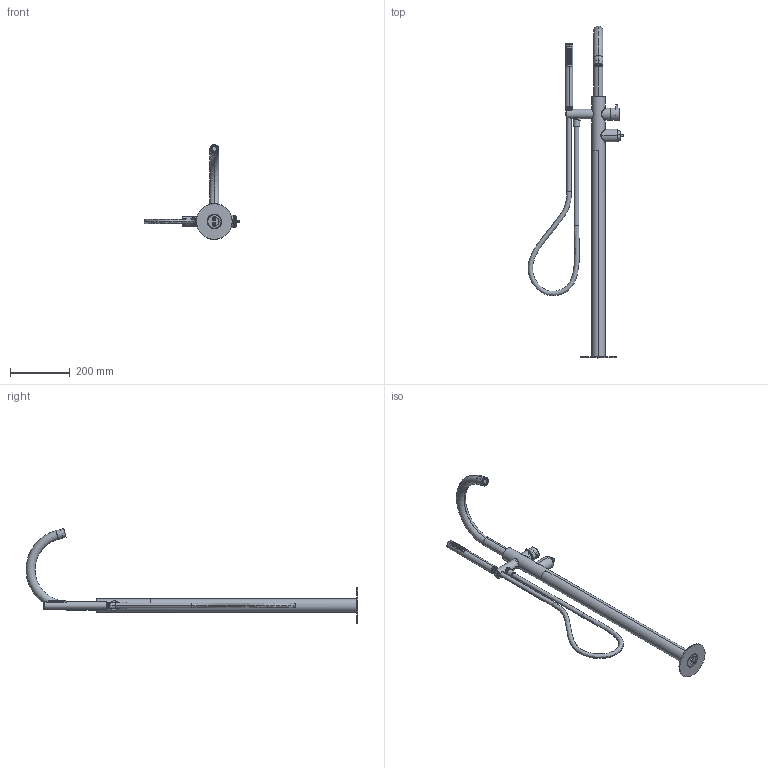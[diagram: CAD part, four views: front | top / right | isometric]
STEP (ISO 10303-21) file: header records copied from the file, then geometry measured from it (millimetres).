
FILE_DESCRIPTION((''),'2;1');
FILE_NAME('12594S_SW0002','2025-02-17T11:12:52',('volponeff'),(''),'CREO PARAMETRIC BY PTC INC, 2022014','CREO PARAMETRIC BY PTC INC, 2022014','');
FILE_SCHEMA(('CONFIG_CONTROL_DESIGN'));
Products named in the file (1): 12594S_SW0002
Bounding box: 320.2 x 1109.86 x 317.32 mm (x, y, z)
Volume: 1226436.3 mm3; surface area: 511347.9 mm2
Topology: 4 solids, 4 shells, 1546 faces, 3684 edges, 2257 vertices
Faces by surface type: cylinder 727, plane 290, cone 186, bspline 182, torus 131, sphere 30
Entity records: 112115 total; most frequent: CARTESIAN_POINT 78155, ORIENTED_EDGE 7316, DIRECTION 6645, EDGE_CURVE 3658, AXIS2_PLACEMENT_3D 2700, VERTEX_POINT 2257, EDGE_LOOP 1721, FACE_OUTER_BOUND 1546
